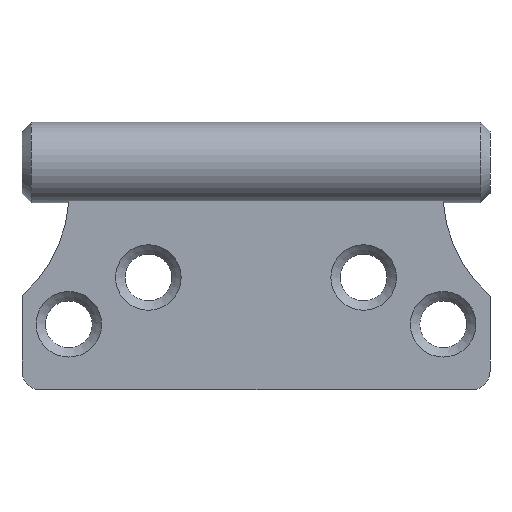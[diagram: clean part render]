
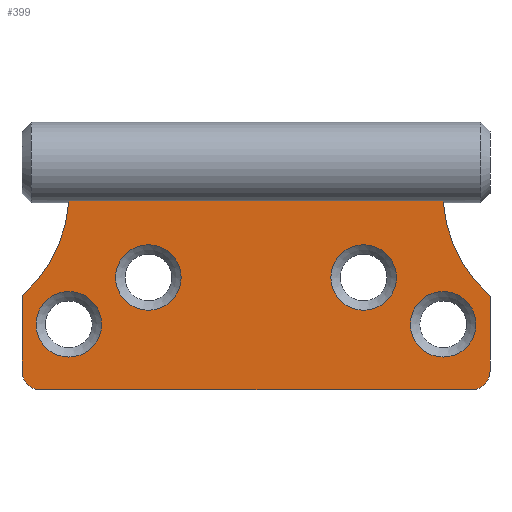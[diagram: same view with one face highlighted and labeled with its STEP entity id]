
A CAD part, front view. The second image highlights one B-rep face of the part: STEP entity #399.
In plain terms, the highlighted planar face has unit normal (0, -1, 0).
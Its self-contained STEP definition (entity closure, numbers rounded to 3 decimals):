
#17=PLANE('',#437);
#26=LINE('',#622,#48);
#28=LINE('',#643,#50);
#29=LINE('',#647,#51);
#30=LINE('',#650,#52);
#31=LINE('',#652,#53);
#32=LINE('',#655,#54);
#48=VECTOR('',#491,10.);
#50=VECTOR('',#515,10.);
#51=VECTOR('',#518,10.);
#52=VECTOR('',#521,10.);
#53=VECTOR('',#522,10.);
#54=VECTOR('',#525,10.);
#84=FACE_BOUND('',#137,.T.);
#85=FACE_BOUND('',#138,.T.);
#86=FACE_BOUND('',#139,.T.);
#87=FACE_BOUND('',#140,.T.);
#105=FACE_OUTER_BOUND('',#136,.T.);
#136=EDGE_LOOP('',(#303,#304,#305,#306,#307,#308,#309,#310,#311,#312));
#137=EDGE_LOOP('',(#313));
#138=EDGE_LOOP('',(#314));
#139=EDGE_LOOP('',(#315));
#140=EDGE_LOOP('',(#316));
#180=CIRCLE('',#436,3.5);
#181=CIRCLE('',#438,2.);
#182=CIRCLE('',#439,2.);
#183=CIRCLE('',#440,15.);
#184=CIRCLE('',#441,15.);
#185=CIRCLE('',#442,3.5);
#186=CIRCLE('',#443,3.5);
#187=CIRCLE('',#444,3.5);
#204=VERTEX_POINT('',#619);
#205=VERTEX_POINT('',#621);
#210=VERTEX_POINT('',#636);
#211=VERTEX_POINT('',#639);
#212=VERTEX_POINT('',#640);
#213=VERTEX_POINT('',#642);
#214=VERTEX_POINT('',#644);
#215=VERTEX_POINT('',#646);
#216=VERTEX_POINT('',#648);
#217=VERTEX_POINT('',#651);
#218=VERTEX_POINT('',#653);
#219=VERTEX_POINT('',#656);
#220=VERTEX_POINT('',#658);
#221=VERTEX_POINT('',#660);
#242=EDGE_CURVE('',#204,#205,#26,.T.);
#248=EDGE_CURVE('',#210,#210,#180,.T.);
#249=EDGE_CURVE('',#211,#212,#181,.T.);
#250=EDGE_CURVE('',#211,#213,#28,.T.);
#251=EDGE_CURVE('',#214,#213,#182,.T.);
#252=EDGE_CURVE('',#214,#215,#29,.T.);
#253=EDGE_CURVE('',#215,#216,#183,.T.);
#254=EDGE_CURVE('',#216,#205,#30,.T.);
#255=EDGE_CURVE('',#204,#217,#31,.T.);
#256=EDGE_CURVE('',#217,#218,#184,.T.);
#257=EDGE_CURVE('',#218,#212,#32,.T.);
#258=EDGE_CURVE('',#219,#219,#185,.T.);
#259=EDGE_CURVE('',#220,#220,#186,.T.);
#260=EDGE_CURVE('',#221,#221,#187,.T.);
#303=ORIENTED_EDGE('',*,*,#249,.F.);
#304=ORIENTED_EDGE('',*,*,#250,.T.);
#305=ORIENTED_EDGE('',*,*,#251,.F.);
#306=ORIENTED_EDGE('',*,*,#252,.T.);
#307=ORIENTED_EDGE('',*,*,#253,.T.);
#308=ORIENTED_EDGE('',*,*,#254,.T.);
#309=ORIENTED_EDGE('',*,*,#242,.F.);
#310=ORIENTED_EDGE('',*,*,#255,.T.);
#311=ORIENTED_EDGE('',*,*,#256,.T.);
#312=ORIENTED_EDGE('',*,*,#257,.T.);
#313=ORIENTED_EDGE('',*,*,#258,.F.);
#314=ORIENTED_EDGE('',*,*,#259,.F.);
#315=ORIENTED_EDGE('',*,*,#260,.F.);
#316=ORIENTED_EDGE('',*,*,#248,.F.);
#399=ADVANCED_FACE('',(#105,#84,#85,#86,#87),#17,.T.);
#436=AXIS2_PLACEMENT_3D('',#637,#509,#510);
#437=AXIS2_PLACEMENT_3D('',#638,#511,#512);
#438=AXIS2_PLACEMENT_3D('',#641,#513,#514);
#439=AXIS2_PLACEMENT_3D('',#645,#516,#517);
#440=AXIS2_PLACEMENT_3D('',#649,#519,#520);
#441=AXIS2_PLACEMENT_3D('',#654,#523,#524);
#442=AXIS2_PLACEMENT_3D('',#657,#526,#527);
#443=AXIS2_PLACEMENT_3D('',#659,#528,#529);
#444=AXIS2_PLACEMENT_3D('',#661,#530,#531);
#491=DIRECTION('',(1.,0.,0.));
#509=DIRECTION('center_axis',(0.,-1.,0.));
#510=DIRECTION('ref_axis',(-1.,0.,0.));
#511=DIRECTION('center_axis',(0.,-1.,0.));
#512=DIRECTION('ref_axis',(0.,0.,-1.));
#513=DIRECTION('center_axis',(0.,1.,0.));
#514=DIRECTION('ref_axis',(-0.707,0.,-0.707));
#515=DIRECTION('',(1.,0.,0.));
#516=DIRECTION('center_axis',(0.,1.,0.));
#517=DIRECTION('ref_axis',(0.707,0.,-0.707));
#518=DIRECTION('',(0.,0.,1.));
#519=DIRECTION('center_axis',(0.,1.,0.));
#520=DIRECTION('ref_axis',(-0.663,0.,-0.748));
#521=DIRECTION('',(0.,0.,1.));
#522=DIRECTION('',(0.,0.,-1.));
#523=DIRECTION('center_axis',(0.,1.,0.));
#524=DIRECTION('ref_axis',(0.997,0.,-0.082));
#525=DIRECTION('',(0.,0.,-1.));
#526=DIRECTION('center_axis',(0.,-1.,0.));
#527=DIRECTION('ref_axis',(-1.,0.,0.));
#528=DIRECTION('center_axis',(0.,-1.,0.));
#529=DIRECTION('ref_axis',(-1.,0.,0.));
#530=DIRECTION('center_axis',(0.,-1.,0.));
#531=DIRECTION('ref_axis',(-1.,0.,0.));
#619=CARTESIAN_POINT('',(5.,-1.25,-4.114));
#621=CARTESIAN_POINT('',(45.,-1.25,-4.114));
#622=CARTESIAN_POINT('',(0.,-1.25,-4.114));
#636=CARTESIAN_POINT('',(48.5,-1.25,-17.3));
#637=CARTESIAN_POINT('Origin',(45.,-1.25,-17.3));
#638=CARTESIAN_POINT('Origin',(25.,-1.25,-13.145));
#639=CARTESIAN_POINT('',(2.,-1.25,-24.3));
#640=CARTESIAN_POINT('',(0.,-1.25,-22.3));
#641=CARTESIAN_POINT('Origin',(2.,-1.25,-22.3));
#642=CARTESIAN_POINT('',(48.,-1.25,-24.3));
#643=CARTESIAN_POINT('',(0.,-1.25,-24.3));
#644=CARTESIAN_POINT('',(50.,-1.25,-22.3));
#645=CARTESIAN_POINT('Origin',(48.,-1.25,-22.3));
#646=CARTESIAN_POINT('',(50.,-1.25,-14.3));
#647=CARTESIAN_POINT('',(50.,-1.25,-24.3));
#648=CARTESIAN_POINT('',(45.,-1.25,-4.3));
#649=CARTESIAN_POINT('Origin',(59.95,-1.25,-3.075));
#650=CARTESIAN_POINT('',(45.,-1.25,-4.3));
#651=CARTESIAN_POINT('',(5.,-1.25,-4.3));
#652=CARTESIAN_POINT('',(5.,-1.25,0.));
#653=CARTESIAN_POINT('',(0.,-1.25,-14.3));
#654=CARTESIAN_POINT('Origin',(-9.95,-1.25,-3.075));
#655=CARTESIAN_POINT('',(0.,-1.25,-14.3));
#656=CARTESIAN_POINT('',(40.,-1.25,-12.3));
#657=CARTESIAN_POINT('Origin',(36.5,-1.25,-12.3));
#658=CARTESIAN_POINT('',(8.5,-1.25,-17.3));
#659=CARTESIAN_POINT('Origin',(5.,-1.25,-17.3));
#660=CARTESIAN_POINT('',(17.,-1.25,-12.3));
#661=CARTESIAN_POINT('Origin',(13.5,-1.25,-12.3));
